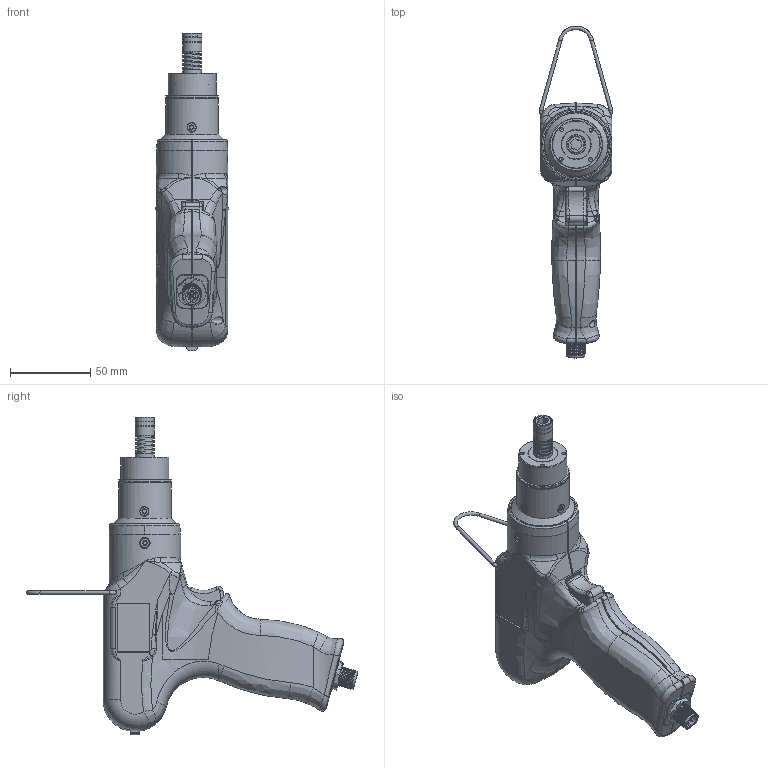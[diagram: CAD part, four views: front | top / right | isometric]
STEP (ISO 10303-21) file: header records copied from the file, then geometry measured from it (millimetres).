
FILE_DESCRIPTION (( 'STEP AP214' ), '1' );
FILE_NAME ('Mito 15P.STEP', '2025-09-17T09:18:09', ( '' ), ( '' ), 'SwSTEP 2.0', 'SolidWorks 2024', '' );
FILE_SCHEMA (( 'AUTOMOTIVE_DESIGN' ));
Length unit declared in the file: millimetre
Products named in the file (1): Mito 15P
Bounding box: 45.94 x 207.05 x 198.26 mm (x, y, z)
Surface area: 107814.6 mm2 (no closed solid volume)
Topology: 0 solids, 50 shells, 2342 faces, 5876 edges, 3678 vertices
Faces by surface type: plane 788, cylinder 641, bspline 511, cone 360, torus 40, sphere 2
Full cylindrical faces by diameter (mm): 0.434 x1, 1 x7, 1.3 x5, 1.6 x7, 1.68 x82, 1.7 x4, 2 x2, 2.2 x74, 2.4 x3, 2.5 x6, 2.8 x4, 3 x6, 3.009 x2, 3.15 x4, 3.2 x8, 4 x7, 5.5 x6, 7.8 x1, 8 x3, 9 x1, 9.75 x2, 9.8 x1, 10.5 x1, 10.7 x1, 10.8 x1, 11.4 x9, 11.75 x1, 11.8 x2, 12 x13, 15.89 x1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
Entity records: 158905 total; most frequent: CARTESIAN_POINT 86292, ORIENTED_EDGE 10395, DIRECTION 7543, EDGE_CURVE 5199, VERTEX_POINT 3570, EDGE_LOOP 2980, AXIS2_PLACEMENT_3D 2961, FACE_OUTER_BOUND 2617
